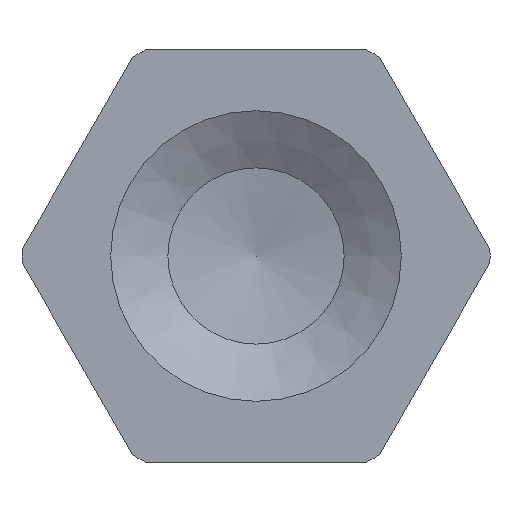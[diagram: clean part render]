
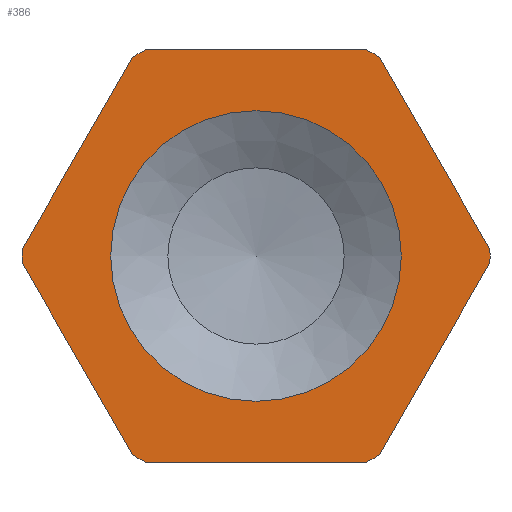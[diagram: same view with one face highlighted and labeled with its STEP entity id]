
A CAD part, left-side view. The second image highlights one B-rep face of the part: STEP entity #386.
In plain terms, the highlighted planar face has unit normal (-1, 0, 0).
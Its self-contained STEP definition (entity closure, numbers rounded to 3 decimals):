
#18=LINE($,#620,#42);
#19=LINE($,#624,#43);
#20=LINE($,#628,#44);
#21=LINE($,#632,#45);
#22=LINE($,#636,#46);
#23=LINE($,#640,#47);
#42=VECTOR($,#496,2.133);
#43=VECTOR($,#499,2.133);
#44=VECTOR($,#502,2.133);
#45=VECTOR($,#505,2.133);
#46=VECTOR($,#508,2.133);
#47=VECTOR($,#511,2.133);
#61=PLANE($,#424);
#86=FACE_BOUND($,#126,.T.);
#87=FACE_BOUND($,#127,.T.);
#126=EDGE_LOOP($,(#278));
#127=EDGE_LOOP($,(#279,#280,#281,#282,#283,#284,#285,#286,#287,#288,#289,
#290));
#156=CIRCLE($,#413,1.397);
#165=CIRCLE($,#425,2.25);
#166=CIRCLE($,#426,2.25);
#167=CIRCLE($,#427,2.25);
#168=CIRCLE($,#428,2.25);
#169=CIRCLE($,#429,2.25);
#170=CIRCLE($,#430,2.25);
#179=VERTEX_POINT($,#585);
#194=VERTEX_POINT($,#618);
#195=VERTEX_POINT($,#619);
#196=VERTEX_POINT($,#621);
#197=VERTEX_POINT($,#623);
#198=VERTEX_POINT($,#625);
#199=VERTEX_POINT($,#627);
#200=VERTEX_POINT($,#629);
#201=VERTEX_POINT($,#631);
#202=VERTEX_POINT($,#633);
#203=VERTEX_POINT($,#635);
#204=VERTEX_POINT($,#637);
#205=VERTEX_POINT($,#639);
#214=EDGE_CURVE($,#179,#179,#156,.T.);
#229=EDGE_CURVE($,#194,#195,#18,.T.);
#230=EDGE_CURVE($,#195,#196,#165,.T.);
#231=EDGE_CURVE($,#196,#197,#19,.T.);
#232=EDGE_CURVE($,#197,#198,#166,.T.);
#233=EDGE_CURVE($,#198,#199,#20,.T.);
#234=EDGE_CURVE($,#199,#200,#167,.T.);
#235=EDGE_CURVE($,#200,#201,#21,.T.);
#236=EDGE_CURVE($,#201,#202,#168,.T.);
#237=EDGE_CURVE($,#202,#203,#22,.T.);
#238=EDGE_CURVE($,#203,#204,#169,.T.);
#239=EDGE_CURVE($,#204,#205,#23,.T.);
#240=EDGE_CURVE($,#205,#194,#170,.T.);
#278=ORIENTED_EDGE($,*,*,#214,.T.);
#279=ORIENTED_EDGE($,*,*,#229,.T.);
#280=ORIENTED_EDGE($,*,*,#230,.T.);
#281=ORIENTED_EDGE($,*,*,#231,.T.);
#282=ORIENTED_EDGE($,*,*,#232,.T.);
#283=ORIENTED_EDGE($,*,*,#233,.T.);
#284=ORIENTED_EDGE($,*,*,#234,.T.);
#285=ORIENTED_EDGE($,*,*,#235,.T.);
#286=ORIENTED_EDGE($,*,*,#236,.T.);
#287=ORIENTED_EDGE($,*,*,#237,.T.);
#288=ORIENTED_EDGE($,*,*,#238,.T.);
#289=ORIENTED_EDGE($,*,*,#239,.T.);
#290=ORIENTED_EDGE($,*,*,#240,.T.);
#386=ADVANCED_FACE($,(#86,#87),#61,.T.);
#413=AXIS2_PLACEMENT_3D($,#586,#466,#467);
#424=AXIS2_PLACEMENT_3D($,#617,#494,#495);
#425=AXIS2_PLACEMENT_3D($,#622,#497,#498);
#426=AXIS2_PLACEMENT_3D($,#626,#500,#501);
#427=AXIS2_PLACEMENT_3D($,#630,#503,#504);
#428=AXIS2_PLACEMENT_3D($,#634,#506,#507);
#429=AXIS2_PLACEMENT_3D($,#638,#509,#510);
#430=AXIS2_PLACEMENT_3D($,#641,#512,#513);
#466=DIRECTION('center_axis',(1.,0.,0.));
#467=DIRECTION('ref_axis',(0.,-1.,0.));
#494=DIRECTION('center_axis',(-1.,0.,0.));
#495=DIRECTION('ref_axis',(0.,0.,1.));
#496=DIRECTION($,(0.,-0.5,-0.866));
#497=DIRECTION('center_axis',(-1.,0.,0.));
#498=DIRECTION('ref_axis',(0.,1.,0.));
#499=DIRECTION($,(0.,-1.,0.));
#500=DIRECTION('center_axis',(-1.,0.,0.));
#501=DIRECTION('ref_axis',(0.,1.,0.));
#502=DIRECTION($,(0.,-0.5,0.866));
#503=DIRECTION('center_axis',(-1.,0.,0.));
#504=DIRECTION('ref_axis',(0.,1.,0.));
#505=DIRECTION($,(0.,0.5,0.866));
#506=DIRECTION('center_axis',(-1.,0.,0.));
#507=DIRECTION('ref_axis',(0.,1.,0.));
#508=DIRECTION($,(0.,1.,0.));
#509=DIRECTION('center_axis',(-1.,0.,0.));
#510=DIRECTION('ref_axis',(0.,1.,0.));
#511=DIRECTION($,(0.,0.5,-0.866));
#512=DIRECTION('center_axis',(-1.,0.,0.));
#513=DIRECTION('ref_axis',(0.,1.,0.));
#585=CARTESIAN_POINT('',(-14.655,1.501,0.));
#586=CARTESIAN_POINT('Origin',(-14.655,2.898,0.));
#617=CARTESIAN_POINT('Origin',(-14.655,4.023,0.));
#618=CARTESIAN_POINT('',(-14.655,5.147,-0.067));
#619=CARTESIAN_POINT('',(-14.655,4.081,-1.914));
#620=CARTESIAN_POINT($,(-14.655,5.116,-0.121));
#621=CARTESIAN_POINT('',(-14.655,3.965,-1.981));
#622=CARTESIAN_POINT('Origin',(-14.655,2.898,0.));
#623=CARTESIAN_POINT('',(-14.655,1.832,-1.981));
#624=CARTESIAN_POINT($,(-14.655,4.183,-1.981));
#625=CARTESIAN_POINT('',(-14.655,1.716,-1.914));
#626=CARTESIAN_POINT('Origin',(-14.655,2.898,0.));
#627=CARTESIAN_POINT('',(-14.655,0.649,-0.067));
#628=CARTESIAN_POINT($,(-14.655,1.684,-1.86));
#629=CARTESIAN_POINT('',(-14.655,0.649,0.067));
#630=CARTESIAN_POINT('Origin',(-14.655,2.898,0.));
#631=CARTESIAN_POINT('',(-14.655,1.716,1.914));
#632=CARTESIAN_POINT($,(-14.655,0.962,0.609));
#633=CARTESIAN_POINT('',(-14.655,1.832,1.981));
#634=CARTESIAN_POINT('Origin',(-14.655,2.898,0.));
#635=CARTESIAN_POINT('',(-14.655,3.965,1.981));
#636=CARTESIAN_POINT($,(-14.655,2.738,1.981));
#637=CARTESIAN_POINT('',(-14.655,4.081,1.914));
#638=CARTESIAN_POINT('Origin',(-14.655,2.898,0.));
#639=CARTESIAN_POINT('',(-14.655,5.147,0.067));
#640=CARTESIAN_POINT($,(-14.655,4.393,1.373));
#641=CARTESIAN_POINT('Origin',(-14.655,2.898,0.));
